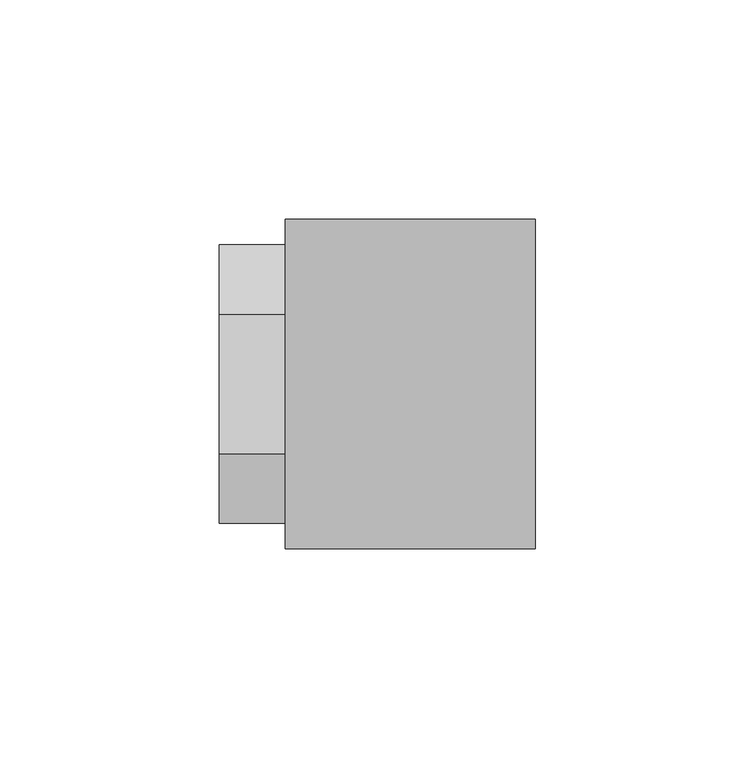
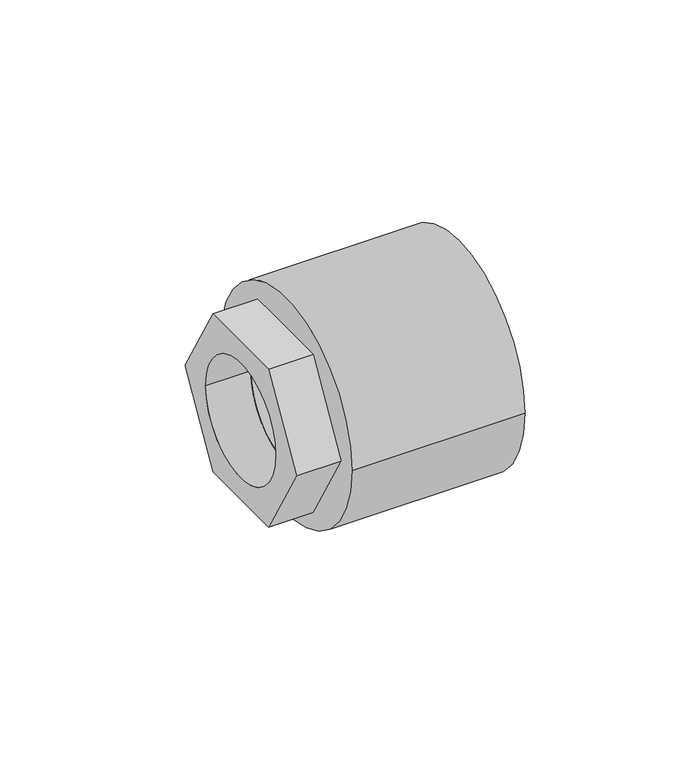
"""IFC4 building model written with IfcOpenShell, lengths in millimetres: pipe fitting geometry, NIRON RED termofusion roscado enlace rosca hembra hexagonal : Estándar."""

from ifc_helpers import new_model, si_unit, frame, origin, place, context, project, spatial, polyline, circle_curve, source, transform, mapped, element, save
from ifc_brep_helpers import plane_surface, cylinder_surface, revolved_surface, advanced_brep


def pipe_fitting_35caa71a(model_context):
    return source(origin(), model_context, "Body", "AdvancedBrep", [
        advanced_brep(
        [(72.0, 37.5, 0.0), (72.0, -37.5, 0.0), (15.0, 37.5, 0.0), (15.0, -37.5, 0.0), (15.0, -20.0, 0.0), (15.0, 20.0, 0.0), (19.0, 20.0, 0.0), (19.0, -20.0, 0.0)],
        [
            (0, 1, circle_curve(frame((72.0, 0.0, 0.0), z_axis=(1.0, 0.0, 0.0), x_axis=(0.0, -1.0, 0.0)), 37.5)),
            (1, 0, circle_curve(frame((72.0, 0.0, 0.0), z_axis=(1.0, 0.0, 0.0), x_axis=(0.0, -1.0, 0.0)), 37.5)),
            (2, 3, circle_curve(frame((15.0, 0.0, 0.0), z_axis=(-1.0, 0.0, 0.0), x_axis=(0.0, -1.0, 0.0)), 37.5)),
            (3, 2, circle_curve(frame((15.0, 0.0, 0.0), z_axis=(-1.0, 0.0, 0.0), x_axis=(0.0, -1.0, 0.0)), 37.5)),
            (4, 5, circle_curve(frame((15.0, 0.0, 0.0), z_axis=(1.0, 0.0, 0.0), x_axis=(0.0, -1.0, 0.0)), 20.0)),
            (5, 4, circle_curve(frame((15.0, 0.0, 0.0), z_axis=(1.0, 0.0, 0.0), x_axis=(0.0, -1.0, 0.0)), 20.0)),
            (1, 3),
            (2, 0),
            (6, 7, circle_curve(frame((19.0, 0.0, 0.0), z_axis=(-1.0, 0.0, 0.0), x_axis=(0.0, -1.0, 0.0)), 20.0)),
            (7, 6, circle_curve(frame((19.0, 0.0, 0.0), z_axis=(-1.0, 0.0, 0.0), x_axis=(0.0, -1.0, 0.0)), 20.0)),
            (6, 5),
            (4, 7),
        ],
        [
            plane_surface(frame((72.0, -37.5, 0.0), z_axis=(1.0, 0.0, 0.0), x_axis=(0.0, 0.0, -1.0))),
            plane_surface(frame((15.0, -37.5, 0.0), z_axis=(-1.0, 0.0, 0.0), x_axis=(0.0, 0.0, 1.0))),
            cylinder_surface(frame((72.0, 0.0, 0.0), z_axis=(-1.0, 0.0, 0.0), x_axis=(0.0, -1.0, 0.0)), 37.5),
            plane_surface(frame((19.0, -20.0, 0.0), z_axis=(-1.0, 0.0, 0.0), x_axis=(0.0, 0.0, -1.0))),
            revolved_surface(polyline([(15.0, -20.0, 0.0), (19.0, -20.0, 0.0)]), (19.0, 0.0, 0.0), (-1.0, 0.0, 0.0)),
        ],
        [
            (0, [[1, 2]]),
            (1, [[3, 4], [5, 6]]),
            (2, [[-2, 7, -3, 8]]),
            (2, [[-1, -8, -4, -7]]),
            (3, [[9, 10]]),
            (4, [[-9, 11, -5, 12]]),
            (4, [[-10, -12, -6, -11]]),
        ],
    ),
        advanced_brep(
        [(45.0, -15.8771324, -27.5), (45.0, 15.8771324, -27.5), (45.0, 31.7542648, 0.0), (45.0, 15.8771324, 27.5), (45.0, -15.8771324, 27.5), (45.0, -31.7542648, 0.0), (0.0, -15.8771324, -27.5), (0.0, -31.7542648, 0.0), (0.0, -15.8771324, 27.5), (0.0, 15.8771324, 27.5), (0.0, 31.7542648, 0.0), (0.0, 15.8771324, -27.5), (0.0, -20.0, 0.0), (0.0, 20.0, 0.0), (19.0, 20.0, 0.0), (19.0, -20.0, 0.0)],
        [
            (0, 1),
            (1, 2),
            (2, 3),
            (3, 4),
            (4, 5),
            (5, 0),
            (6, 7),
            (7, 8),
            (8, 9),
            (9, 10),
            (10, 11),
            (11, 6),
            (12, 13, circle_curve(frame((0.0, 0.0, 0.0), z_axis=(1.0, 0.0, 0.0), x_axis=(0.0, -1.0, 0.0)), 20.0)),
            (13, 12, circle_curve(frame((0.0, 0.0, 0.0), z_axis=(1.0, 0.0, 0.0), x_axis=(0.0, -1.0, 0.0)), 20.0)),
            (0, 6),
            (11, 1),
            (10, 2),
            (9, 3),
            (8, 4),
            (7, 5),
            (14, 15, circle_curve(frame((19.0, 0.0, 0.0), z_axis=(-1.0, 0.0, 0.0), x_axis=(0.0, -1.0, 0.0)), 20.0)),
            (15, 14, circle_curve(frame((19.0, 0.0, 0.0), z_axis=(-1.0, 0.0, 0.0), x_axis=(0.0, -1.0, 0.0)), 20.0)),
            (14, 13),
            (12, 15),
        ],
        [
            plane_surface(frame((45.0, 0.0, 0.0), z_axis=(1.0, 0.0, 0.0), x_axis=(0.0, 0.0, 1.0))),
            plane_surface(frame((0.0, 0.0, 0.0), z_axis=(-1.0, 0.0, 0.0), x_axis=(0.0, 0.0, 1.0))),
            plane_surface(frame((45.0, -15.8771324, -27.5), z_axis=(0.0, 0.0, -1.0), x_axis=(-1.0, 0.0, 0.0))),
            plane_surface(frame((45.0, 15.8771324, -27.5), z_axis=(0.0, 0.8660254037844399, -0.49999999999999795), x_axis=(-1.0, 0.0, 0.0))),
            plane_surface(frame((45.0, 31.7542648, 0.0), z_axis=(0.0, 0.866025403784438, 0.5000000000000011), x_axis=(-1.0, 0.0, 0.0))),
            plane_surface(frame((45.0, 15.8771324, 27.5), z_axis=(0.0, 0.0, 1.0), x_axis=(-1.0, 0.0, 0.0))),
            plane_surface(frame((45.0, -15.8771324, 27.5), z_axis=(0.0, -0.8660254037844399, 0.4999999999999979), x_axis=(-1.0, 0.0, 0.0))),
            plane_surface(frame((45.0, -31.7542648, 0.0), z_axis=(0.0, -0.8660254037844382, -0.500000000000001), x_axis=(-1.0, 0.0, 0.0))),
            plane_surface(frame((19.0, -20.0, 0.0), z_axis=(-1.0, 0.0, 0.0), x_axis=(0.0, 0.0, -1.0))),
            revolved_surface(polyline([(0.0, -20.0, 0.0), (19.0, -20.0, 0.0)]), (19.0, 0.0, 0.0), (-1.0, 0.0, 0.0)),
        ],
        [
            (0, [[1, 2, 3, 4, 5, 6]]),
            (1, [[7, 8, 9, 10, 11, 12], [13, 14]]),
            (2, [[-1, 15, -12, 16]]),
            (3, [[-2, -16, -11, 17]]),
            (4, [[-3, -17, -10, 18]]),
            (5, [[-4, -18, -9, 19]]),
            (6, [[-5, -19, -8, 20]]),
            (7, [[-6, -20, -7, -15]]),
            (8, [[21, 22]]),
            (9, [[-21, 23, -13, 24]]),
            (9, [[-22, -24, -14, -23]]),
        ],
    ),
    ])


if __name__ == "__main__":
    model = new_model("IFC4")
    model_context = context("Model", 3, world=origin())
    ifc_project = project(units=[si_unit("LENGTHUNIT", "METRE", prefix="MILLI")], contexts=[model_context])
    site = spatial("IfcSite", under=ifc_project)
    building = spatial("IfcBuilding", under=site)
    placement = place(None, origin())
    pipe_fitting_shape = pipe_fitting_35caa71a(model_context)
    element("IfcPipeFitting", 1, ObjectType="NIRON RED termofusion roscado enlace rosca hembra hexagonal : Estándar", at=placement, inside=building, context=model_context, shape_type="MappedRepresentation", body=[
        mapped(pipe_fitting_shape, transform((0.0, 0.0, 0.0), x_axis=(1.0, 0.0, 0.0), y_axis=(0.0, 1.0, 0.0), z_axis=(0.0, 0.0, 1.0))),
    ])
    save(model, "model.ifc")
